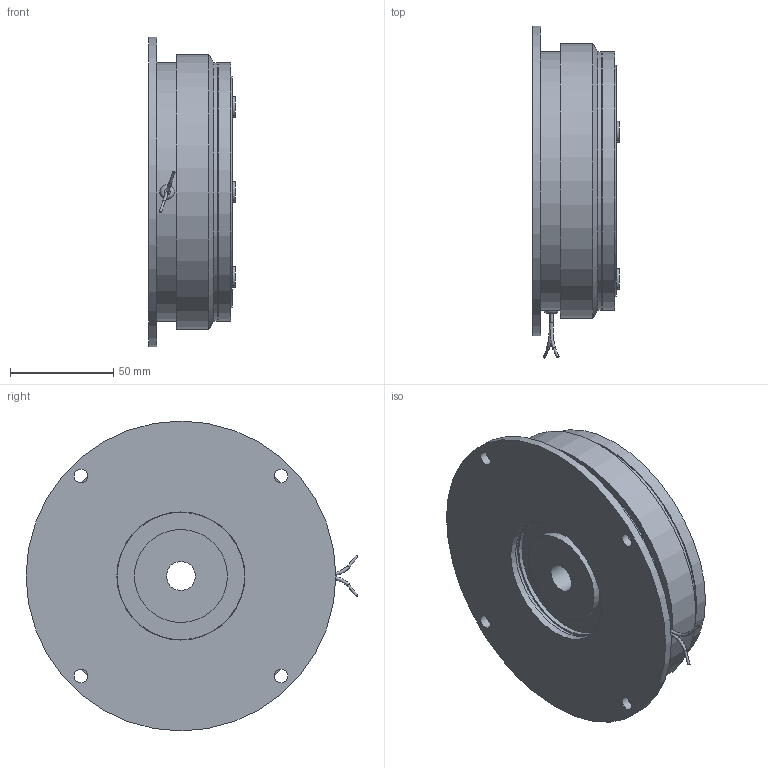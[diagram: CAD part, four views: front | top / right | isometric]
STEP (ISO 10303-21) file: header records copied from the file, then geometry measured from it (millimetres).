
FILE_DESCRIPTION(/* description */ (''),/* implementation_level */ '2;1');
FILE_NAME(/* name */ '\\Srv-tecnico\DATI\UFFICIO TECNICO\ARCHIVIO INVENTOR\DISEGNI\UFFICIO TECNICO\08_Freni_Friz_Elettromagnetici_Monodisco\08_20 ESAL\08_20_125_01 ESAL125\08_20_125_01 ESAL125@STEP.stp',/* time_stamp */ '2016-06-13T14:28:15+02:00',/* author */ ('stefano'),/* organization */ (''),/* preprocessor_version */ 'ST-DEVELOPER v16.1',/* originating_system */ 'Autodesk Inventor 2016',/* authorisation */ '');
FILE_SCHEMA (('AUTOMOTIVE_DESIGN { 1 0 10303 214 3 1 1 }'));
Length unit declared in the file: millimetre
Products named in the file (1): 08_20_125_01 ESAL125_Substitute_1
Bounding box: 42.1 x 160.72 x 150 mm (x, y, z)
Volume: 474429 mm3; surface area: 116813.6 mm2
Topology: 3 solids, 3 shells, 173 faces, 356 edges, 220 vertices
Faces by surface type: cylinder 69, cone 58, plane 43, bspline 2, torus 1
Full cylindrical faces by diameter (mm): 1.154 x2, 1.5 x2, 2 x3, 6.1 x3, 6.6 x4, 10 x3, 14 x1, 15 x3, 45 x1, 52 x1, 61.7 x1, 62 x4, 63.8 x1, 74 x1, 78 x1, 79 x1, 112 x1, 115 x1, 118 x1, 125 x3, 125.2 x1, 133 x1, 150 x1
Entity records: 4672 total; most frequent: CARTESIAN_POINT 856, DIRECTION 833, ORIENTED_EDGE 586, AXIS2_PLACEMENT_3D 378, EDGE_CURVE 288, EDGE_LOOP 281, CIRCLE 206, VERTEX_POINT 202
